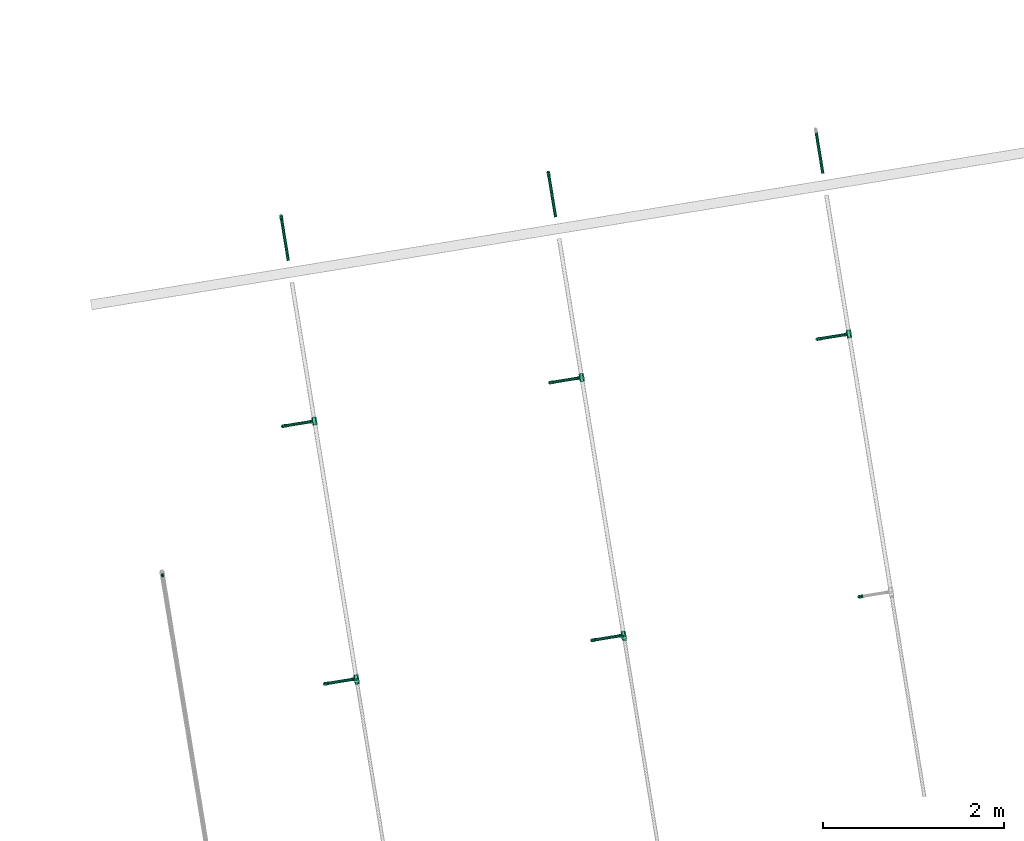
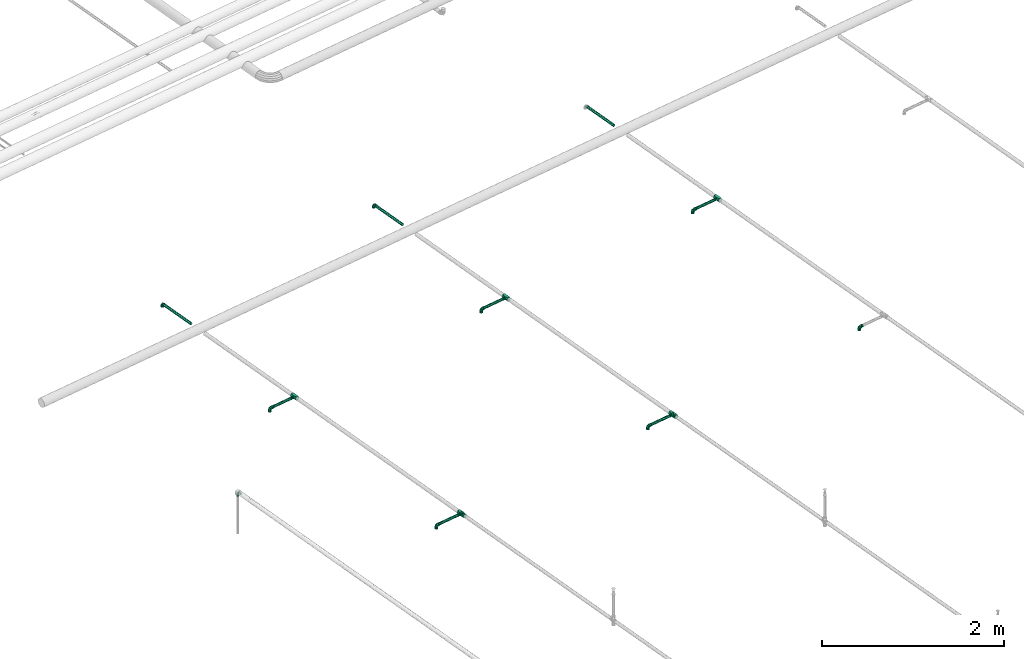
# One storey, part 21 of 56: 16 flow fittings, 8 flow segments.
"""IFC2X3 building model written with IfcOpenShell, lengths in millimetres."""

from ifc_helpers import new_model, entity, si_unit, converted_unit, derived_unit, direction, frame, frame_2d, origin, origin_with_axes, origin_2d_with_axis, place, context, subcontext, project, spatial, circle, extrude, faceted_brep, source, transform, mapped, material, type_object, element, save


model = new_model("IFC2X3")

# Units and contexts
model_context = context("Model", 3, precision=0.01, world=origin(), true_north=direction((6.12323399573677e-17, 1.0)))
plan_context = context("Plan", 3, precision=1e-05, world=origin_with_axes())
body_context = subcontext(model_context, "Body", "Model", "MODEL_VIEW")
ifc_project = project(units=[converted_unit("PLANEANGLEUNIT", "DEGREE", entity("IfcPositiveLengthMeasure", 0.0174532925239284), si_unit("PLANEANGLEUNIT", "RADIAN"), dimensions=[0, 0, 0, 0, 0, 0, 0]), si_unit("AREAUNIT", "SQUARE_METRE"), si_unit("LENGTHUNIT", "METRE", prefix="MILLI"), si_unit("MASSUNIT", "GRAM", prefix="KILO"), si_unit("POWERUNIT", "WATT"), si_unit("PRESSUREUNIT", "PASCAL", prefix="KILO"), si_unit("FORCEUNIT", "NEWTON", prefix="KILO"), si_unit("ELECTRICVOLTAGEUNIT", "VOLT"), si_unit("ELECTRICCURRENTUNIT", "AMPERE"), si_unit("THERMODYNAMICTEMPERATUREUNIT", "DEGREE_CELSIUS"), si_unit("TIMEUNIT", "SECOND"), si_unit("VOLUMEUNIT", "CUBIC_METRE"), derived_unit("LINEARVELOCITYUNIT", [(si_unit("LENGTHUNIT", "METRE"), 1), (si_unit("TIMEUNIT", "SECOND"), -1)]), derived_unit("VOLUMETRICFLOWRATEUNIT", [(si_unit("VOLUMEUNIT", "CUBIC_METRE"), 1), (si_unit("TIMEUNIT", "SECOND"), -1)]), derived_unit("THERMALTRANSMITTANCEUNIT", [(si_unit("POWERUNIT", "WATT"), 1), (si_unit("THERMODYNAMICTEMPERATUREUNIT", "KELVIN"), -1), (si_unit("AREAUNIT", "SQUARE_METRE"), -1)]), derived_unit("SOUNDPRESSUREUNIT", [(si_unit("PRESSUREUNIT", "PASCAL"), 1)])], contexts=[model_context, plan_context])

# Site, building, storey
site_placement = place(None, frame((-3.09682673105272e-06, 1.93776733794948e-05, 0.0), z_axis=(0.0, 0.0, 1.0), x_axis=(-0.160806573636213, 0.986985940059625, 0.0)))
site = spatial("IfcSite", under=ifc_project, at=site_placement, Name="Default", CompositionType="ELEMENT")
building_placement = place(site_placement, frame((0.0, 0.0, 0.0), z_axis=(0.0, 0.0, 1.0), x_axis=(1.0, -2.77555756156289e-17, 0.0)))
building = spatial("IfcBuilding", under=site, at=building_placement, Name="Bygning (endres i Project Information)", CompositionType="ELEMENT")
storey_placement = place(building_placement, frame((0.0, 0.0, 51360.0000000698), z_axis=(0.0, 0.0, 1.0), x_axis=(1.0, -2.77555756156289e-17, 0.0)))
storey = spatial("IfcBuildingStorey", under=building, at=storey_placement, Name="H01-Nivå D+0,36", CompositionType="ELEMENT", Elevation=51360.0000000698)

# Flow fittings
ifc_material_1 = material(Name="3320.001")
pipe_fitting_type_1 = type_object("IfcPipeFittingType", Name="RS_53_PIF_UN_Tee-Reduced-EN10241_MC_gen:RS_53_PIF_UN_Tee-Reduced-EN10241_MC_gen", PredefinedType="NOTDEFINED", material=ifc_material_1)
shared_shape_1 = source(origin(), body_context, "Body", "Brep", [
    faceted_brep([(44.0, -28.0, 0.0), (44.0, -21.0, -12.124355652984), (44.0, -14.0, -24.2487113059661), (44.0, 0.0, -24.2487113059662), (44.0, 14.0, -24.2487113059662), (44.0, 21.0, -12.1243556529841), (44.0, 28.0, 0.0), (44.0, 21.0, 12.1243556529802), (44.0, 14.0, 24.2487113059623), (44.0, 0.0, 24.2487113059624), (44.0, -14.0, 24.2487113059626), (44.0, -21.0, 12.1243556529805), (-44.0, -28.0, 0.0), (-44.0, -21.0, 12.1243556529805), (-44.0, -14.0, 24.2487113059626), (-44.0, 0.0, 24.2487113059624), (-44.0, 14.0, 24.2487113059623), (-44.0, 21.0, 12.1243556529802), (-44.0, 28.0, 0.0), (-44.0, 20.982647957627, -12.1544102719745), (-44.0, 14.0, -24.2487113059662), (-44.0, 0.0, -24.2487113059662), (-44.0, -14.0, -24.2487113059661), (-44.0, -21.0, -12.124355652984), (3.55028427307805, -20.1628871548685, 19.4282778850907), (11.6501421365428, -24.0814435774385, 9.71413894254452), (-19.7499999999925, -28.0, 0.0), (-8.09985786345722, -24.0814435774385, 9.71413894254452), (19.7500000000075, -28.0, 0.0), (-11.6531711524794, -24.0819773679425, -9.71358493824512), (-3.55634230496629, -20.1639547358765, -19.4271698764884), (8.0968288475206, -24.0819773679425, -9.71358493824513), (9.87500000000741, -52.0, -17.1040017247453), (14.8125000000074, -52.0, -8.55200086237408), (19.7500000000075, -52.0, 0.0), (14.8125000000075, -52.0, 8.55200086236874), (9.87500000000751, -52.0, 17.1040017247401), (0.0, -52.0, 17.1040017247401), (-9.87499999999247, -52.0, 17.1040017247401), (-14.8124999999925, -52.0, 8.55200086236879), (-19.7499999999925, -52.0, 0.0), (-14.8124999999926, -52.0, -8.55200086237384), (-9.87499999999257, -52.0, -17.1040017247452), (0.0, -52.0, -17.1040017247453)], [[[0, 1, 2, 3, 4, 5, 6, 7, 8, 9, 10, 11]], [[12, 13, 14, 15, 16, 17, 18, 19, 20, 21, 22, 23]], [[7, 6, 18, 17, 16, 8]], [[8, 16, 15, 9]], [[15, 14, 24]], [[11, 24, 25]], [[24, 9, 15]], [[12, 26, 13]], [[13, 26, 27, 24]], [[0, 11, 25]], [[0, 25, 28]], [[24, 14, 13]], [[24, 11, 10]], [[9, 24, 10]], [[19, 18, 6, 5, 4, 20]], [[23, 29, 12]], [[30, 1, 28, 31]], [[23, 30, 29]], [[12, 29, 26]], [[1, 0, 28]], [[23, 22, 30]], [[21, 20, 4, 3]], [[30, 21, 3]], [[30, 3, 2]], [[30, 2, 1]], [[21, 30, 22]], [[32, 33, 34, 35, 36, 37, 38, 39, 40, 41, 42, 43]], [[26, 41, 40]], [[29, 42, 41]], [[31, 43, 30]], [[32, 31, 33]], [[30, 42, 29]], [[28, 33, 31]], [[31, 32, 43]], [[34, 33, 28]], [[43, 42, 30]], [[26, 29, 41]], [[28, 35, 34]], [[25, 36, 35]], [[27, 37, 24]], [[38, 27, 39]], [[24, 36, 25]], [[26, 39, 27]], [[27, 38, 37]], [[40, 39, 26]], [[37, 36, 24]], [[28, 25, 35]]]),
])
for number, where, z_axis, x_axis in (
    (1, (1005768.93557438, -392286.663841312, 3370.0), (0.0, 0.0, 1.0), (-1.0, 2.77555756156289e-17, 0.0)),
    (2, (1002876.93557438, -389286.663841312, 3370.0), (0.0, 0.0, 1.0), (-1.0, 2.77555756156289e-17, 0.0)),
    (3, (1005768.93557438, -389286.663841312, 3370.0), (0.0, 0.0, 1.0), (-1.0, 2.77555756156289e-17, 0.0)),
    (4, (1002876.93557438, -386286.663841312, 3370.0), (0.0, 0.0, 1.0), (-1.0, 2.77555756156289e-17, 0.0)),
    (5, (1005768.93557438, -386286.663841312, 3370.0), (0.0, 0.0, 1.0), (-1.0, 2.77555756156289e-17, 0.0)),
):
    element("IfcFlowFitting", number, at=place(storey_placement, frame(where, z_axis=z_axis, x_axis=x_axis)), inside=storey, type_object=pipe_fitting_type_1, material=ifc_material_1, Name="RS_53_PIF_UN_Tee-Reduced-EN10241_MC_gen:RS_53_PIF_UN_Tee-Reduced-EN10241_MC_gen", ObjectType="RS_53_PIF_UN_Tee-Reduced-EN10241_MC_gen:RS_53_PIF_UN_Tee-Reduced-EN10241_MC_gen", context=body_context, shape_type="MappedRepresentation", body=[
        mapped(shared_shape_1, transform((0.0, 0.0, 0.0), scale=1.0)),
    ])
pipe_fitting_type_2 = type_object("IfcPipeFittingType", Name="RS_53_PIF_UN_Reducing-Socket-EN10241_MC_gen:RS_53_PIF_UN_Reducing-Socket-EN10241_MC_gen", PredefinedType="NOTDEFINED", material=ifc_material_1)
shared_shape_2 = source(origin(), body_context, "Body", "Brep", [
    faceted_brep([(0.0, -7.24693326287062, 27.0459231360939), (0.0, 0.0, 28.0), (0.0, 7.24693326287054, 27.0459231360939), (0.0, 14.0, 24.2487113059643), (0.0, 19.7989898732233, 19.7989898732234), (0.0, 24.2487113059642, 14.0), (0.0, 27.0459231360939, 7.24693326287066), (0.0, 28.0, 0.0), (0.0, 27.0459231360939, -7.24693326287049), (0.0, 24.2487113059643, -14.0), (0.0, 19.7989898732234, -19.7989898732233), (0.0, 14.0, -24.2487113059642), (0.0, 7.2469332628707, -27.0459231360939), (0.0, 0.0, -28.0), (0.0, -7.24693326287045, -27.0459231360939), (0.0, -14.0, -24.2487113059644), (0.0, -19.7989898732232, -19.7989898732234), (0.0, -24.2487113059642, -14.0), (0.0, -27.0459231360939, -7.24693326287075), (0.0, -28.0, 0.0), (0.0, -27.0459231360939, 7.24693326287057), (0.0, -24.2487113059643, 14.0), (0.0, -19.7989898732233, 19.7989898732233), (0.0, -14.0, 24.2487113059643), (20.0, 9.43067316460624, -25.9117989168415), (20.0, 21.4490865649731, -17.9982411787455), (20.0, 23.8802189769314, -13.7874602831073), (20.0, 26.3113513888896, -9.57667938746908), (20.0, 17.7243837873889, -21.1235683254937), (20.0, 13.9996810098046, -24.248895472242), (20.0, 27.1556756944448, -4.7883396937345), (20.0, 4.86166531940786, -27.5747023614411), (20.0, -0.000544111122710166, -27.5746064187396), (20.0, -4.86275354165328, -27.5745104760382), (20.0, 28.0, 0.0), (20.0, -14.0006379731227, -24.2483429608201), (20.0, -9.43169575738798, -25.9114267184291), (20.0, -23.8807630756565, -13.7865178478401), (20.0, -26.3117293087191, -9.57564101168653), (20.0, -21.449796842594, -17.9973946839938), (20.0, -17.7252174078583, -21.122868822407), (20.0, -28.0, 0.0), (20.0, -21.4497968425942, 17.9973946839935), (20.0, -23.8807630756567, 13.7865178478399), (20.0, -26.3117293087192, 9.57564101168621), (20.0, -17.7252174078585, 21.1228688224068), (20.0, -14.0006379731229, 24.24834296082), (20.0, -9.43169575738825, 25.9114267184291), (20.0, -4.86275354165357, 27.5745104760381), (20.0, -0.000544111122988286, 27.5746064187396), (20.0, 4.86166531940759, 27.5747023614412), (20.0, 27.1556756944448, 4.78833969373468), (20.0, 13.9996810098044, 24.2488954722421), (20.0, 9.43067316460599, 25.9117989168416), (20.0, 17.7243837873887, 21.1235683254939), (20.0, 21.449086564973, 17.9982411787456), (20.0, 26.3113513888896, 9.57667938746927), (20.0, 23.8802189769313, 13.7874602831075), (40.0, -23.0225328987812, -8.37931852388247), (40.0, -24.5000000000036, 0.0), (40.0, -18.7681935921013, -15.7481716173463), (40.0, 15.5089992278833, -18.482994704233), (40.0, 12.2499395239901, -21.2176573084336), (40.0, -12.2501209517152, -21.2175525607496), (40.0, -20.8953632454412, -12.0637450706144), (40.0, -15.5091572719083, -18.4828620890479), (40.0, -0.000103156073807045, -24.1277879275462), (40.0, -4.25449497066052, -24.1277697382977), (40.0, -8.25230796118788, -22.6726611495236), (40.0, 4.25428865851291, -24.1278061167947), (40.0, 8.25211409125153, -22.6727317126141), (40.0, 20.8952600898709, -12.0639237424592), (40.0, 18.7680589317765, -15.7483321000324), (40.0, 23.6863464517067, -4.61444575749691), (40.0, 23.0224612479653, -8.37951538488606), (40.0, 24.4999999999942, 0.0), (40.0, 23.7612306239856, -4.18975769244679), (40.0, 23.6863464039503, 4.61444602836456), (40.0, 23.7612306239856, 4.18975769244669), (40.0, 12.2499395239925, 21.2176573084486), (40.0, -12.250120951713, 21.2175525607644), (40.0, -15.509157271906, 18.4828620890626), (40.0, 18.7680589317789, 15.7483321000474), (40.0, 20.8952600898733, 12.0639237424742), (40.0, 4.2542886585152, 24.1278061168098), (40.0, 15.5089992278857, 18.482994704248), (40.0, 23.0224612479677, 8.37951538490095), (40.0, 8.25211409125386, 22.6727317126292), (40.0, -4.25449497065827, 24.1277697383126), (40.0, -18.7681935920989, 15.7481716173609), (40.0, -8.25230796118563, 22.6726611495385), (40.0, -23.0225328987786, 8.37931852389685), (40.0, -0.000103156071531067, 24.1277879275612), (40.0, -20.8953632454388, 12.0637450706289), (60.0, -12.25, -21.2176223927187), (60.0, -6.34106660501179, -23.6651827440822), (60.0, 0.0, -24.5), (60.0, 6.34106660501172, -23.6651827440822), (60.0, 12.25, -21.2176223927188), (60.0, 17.3241161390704, -17.3241161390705), (60.0, 21.2176223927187, -12.2500000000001), (60.0, 23.6651827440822, -6.34106660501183), (60.0, 24.5, 0.0), (60.0, 23.6651827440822, 6.34106660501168), (60.0, 21.2176223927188, 12.2499999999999), (60.0, 17.3241161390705, 17.3241161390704), (60.0, 12.2500000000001, 21.2176223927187), (60.0, 6.34106660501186, 23.6651827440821), (60.0, 0.0, 24.5), (60.0, -6.34106660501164, 23.6651827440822), (60.0, -12.2499999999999, 21.2176223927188), (60.0, -17.3241161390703, 17.3241161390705), (60.0, -21.2176223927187, 12.2500000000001), (60.0, -23.6651827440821, 6.34106660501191), (60.0, -24.5, 0.0), (60.0, -23.6651827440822, -6.34106660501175), (60.0, -21.2176223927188, -12.25), (60.0, -17.3241161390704, -17.3241161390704)], [[[0, 1, 2, 3, 4, 5, 6, 7, 8, 9, 10, 11, 12, 13, 14, 15, 16, 17, 18, 19, 20, 21, 22, 23]], [[12, 11, 24]], [[25, 10, 9]], [[26, 25, 9, 27]], [[11, 28, 29]], [[30, 27, 8]], [[8, 7, 30]], [[8, 27, 9]], [[24, 31, 12]], [[28, 10, 25]], [[32, 33, 13, 31]], [[11, 29, 24]], [[10, 28, 11]], [[7, 34, 30]], [[14, 13, 33]], [[35, 15, 36]], [[37, 38, 17, 39]], [[14, 36, 15]], [[38, 18, 17]], [[40, 39, 16]], [[36, 14, 33]], [[16, 39, 17]], [[15, 35, 40]], [[38, 41, 18]], [[41, 19, 18]], [[12, 31, 13]], [[16, 15, 40]], [[20, 19, 41]], [[42, 22, 21]], [[43, 42, 21, 44]], [[23, 45, 46]], [[20, 41, 44]], [[47, 48, 0]], [[45, 22, 42]], [[49, 50, 1, 48]], [[22, 45, 23]], [[2, 1, 50]], [[0, 48, 1]], [[6, 51, 7]], [[52, 3, 53]], [[20, 44, 21]], [[0, 23, 47]], [[4, 3, 54]], [[51, 34, 7]], [[2, 53, 3]], [[54, 55, 4]], [[53, 2, 50]], [[23, 46, 47]], [[4, 55, 5]], [[6, 5, 56]], [[56, 51, 6]], [[3, 52, 54]], [[5, 55, 57, 56]], [[58, 59, 38]], [[60, 39, 40]], [[61, 62, 28]], [[58, 38, 37]], [[63, 35, 36]], [[64, 39, 60]], [[59, 41, 38]], [[65, 35, 63]], [[37, 39, 64]], [[66, 67, 32]], [[40, 35, 65]], [[36, 33, 68]], [[68, 33, 67]], [[31, 69, 66]], [[69, 31, 24]], [[28, 25, 61]], [[70, 29, 62]], [[71, 72, 26]], [[30, 73, 27]], [[25, 26, 72]], [[64, 58, 37]], [[62, 29, 28]], [[27, 73, 74]], [[30, 75, 76, 73]], [[26, 27, 71]], [[65, 60, 40]], [[61, 25, 72]], [[27, 74, 71]], [[75, 30, 34]], [[32, 67, 33]], [[32, 31, 66]], [[24, 29, 70]], [[70, 69, 24]], [[68, 63, 36]], [[51, 77, 78, 75]], [[52, 79, 54]], [[80, 46, 81]], [[57, 82, 83]], [[84, 53, 50]], [[85, 54, 79]], [[77, 56, 86]], [[34, 51, 75]], [[85, 55, 54]], [[87, 52, 53]], [[51, 56, 77]], [[83, 86, 56]], [[57, 55, 82]], [[49, 48, 88]], [[47, 46, 80]], [[81, 45, 89]], [[87, 53, 84]], [[90, 47, 80]], [[44, 59, 91]], [[43, 44, 91]], [[79, 52, 87]], [[45, 42, 89]], [[92, 49, 88]], [[47, 90, 48]], [[42, 43, 93]], [[81, 46, 45]], [[82, 55, 85]], [[93, 43, 91]], [[41, 59, 44]], [[57, 83, 56]], [[88, 48, 90]], [[50, 49, 92]], [[89, 42, 93]], [[84, 50, 92]], [[94, 95, 96, 97, 98, 99, 100, 101, 102, 103, 104, 105, 106, 107, 108, 109, 110, 111, 112, 113, 114, 115, 116, 117]], [[115, 114, 59]], [[60, 117, 116]], [[64, 60, 116, 58]], [[94, 65, 63]], [[115, 59, 58]], [[68, 67, 95]], [[65, 117, 60]], [[66, 69, 96, 67]], [[117, 65, 94]], [[69, 97, 96]], [[95, 67, 96]], [[97, 70, 98]], [[70, 62, 98]], [[74, 101, 100]], [[95, 94, 68]], [[98, 62, 61]], [[76, 75, 102]], [[115, 58, 116]], [[97, 69, 70]], [[99, 72, 100]], [[61, 72, 99]], [[99, 98, 61]], [[71, 74, 100, 72]], [[101, 76, 102]], [[94, 63, 68]], [[101, 74, 73, 76]], [[107, 106, 87]], [[82, 105, 104]], [[83, 82, 104, 86]], [[106, 85, 79]], [[103, 78, 77, 86]], [[103, 102, 78]], [[103, 86, 104]], [[87, 84, 107]], [[85, 105, 82]], [[92, 88, 108, 84]], [[106, 79, 87]], [[105, 85, 106]], [[102, 75, 78]], [[109, 108, 88]], [[80, 110, 90]], [[93, 91, 112, 89]], [[109, 90, 110]], [[91, 113, 112]], [[81, 89, 111]], [[90, 109, 88]], [[111, 89, 112]], [[110, 80, 81]], [[91, 59, 113]], [[59, 114, 113]], [[107, 84, 108]], [[111, 110, 81]]]),
])
for number, where, z_axis, x_axis in (
    (6, (1002874.33557438, -389286.663841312, 3370.0), (0.0, 0.0, 1.0), (-1.0, 2.77555756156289e-17, 0.0)),
    (7, (1002874.33557438, -386286.663841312, 3370.0), (0.0, 0.0, 1.0), (-1.0, 2.77555756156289e-17, 0.0)),
):
    element("IfcFlowFitting", number, at=place(storey_placement, frame(where, z_axis=z_axis, x_axis=x_axis)), inside=storey, type_object=pipe_fitting_type_2, material=ifc_material_1, Name="RS_53_PIF_UN_Reducing-Socket-EN10241_MC_gen:RS_53_PIF_UN_Reducing-Socket-EN10241_MC_gen", ObjectType="RS_53_PIF_UN_Reducing-Socket-EN10241_MC_gen:RS_53_PIF_UN_Reducing-Socket-EN10241_MC_gen", context=body_context, shape_type="MappedRepresentation", body=[
        mapped(shared_shape_2, transform((0.0, 0.0, 0.0), scale=1.0)),
    ])
pipe_fitting_type_3 = type_object("IfcPipeFittingType", Name="RS_53_PIF_UN_Elbow-EN10241_NOR:RS_53_PIF_UN_Elbow-EN10241_NOR", PredefinedType="NOTDEFINED", material=ifc_material_1)
shared_shape_3 = source(origin(), body_context, "Body", "Brep", [
    faceted_brep([(-43.0, 5.11167614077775, 19.0770350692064), (-43.0, 17.1040017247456, 9.87499999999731), (-43.0, 19.7500000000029, 0.0), (-43.0, 17.1040017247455, -9.87500000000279), (-43.0, 5.11167614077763, -19.0770350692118), (-43.0, -5.11167614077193, -19.0770350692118), (-43.0, -17.1040017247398, -9.87500000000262), (-43.0, -19.7499999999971, 0.0), (-43.0, -17.1040017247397, 9.87499999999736), (-43.0, -5.11167614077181, 19.0770350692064), (-21.7499999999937, -19.7499999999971, 0.0), (-21.7499999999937, -15.1293510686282, -12.6950870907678), (-21.7499999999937, -3.42946974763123, -19.4499675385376), (-21.7499999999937, 15.1294711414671, -12.694943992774), (-21.7499999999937, 19.7500000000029, 0.0), (-21.7499999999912, 5.85000069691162, -16.072455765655), (-21.7499999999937, 15.1294711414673, 12.6949439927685), (-21.7499999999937, 3.42965371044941, 19.4499351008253), (-21.7499999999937, -15.1293510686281, 12.6950870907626), (-5.41688095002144, -10.3200693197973, 0.0), (0.655979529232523, -2.00253561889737, 16.4678355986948), (-11.0449015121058, 9.84579831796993, 18.897380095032), (-18.5589216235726, 21.7499999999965, 6.75491881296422), (-15.1293490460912, 21.7499999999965, 12.6950895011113), (-20.3357864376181, 20.3357864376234, 0.0), (-19.7499999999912, 21.7499999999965, 0.0), (14.190054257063, 1.0, 0.0), (12.6950125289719, 21.7499999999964, 15.1294136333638), (6.75482439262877, 21.7499999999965, 18.5589559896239), (17.2232575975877, 12.3200689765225, 0.0), (-6.754824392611, 21.7499999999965, 18.558955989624), (19.7500000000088, 21.7499999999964, 0.0), (18.5589216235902, 21.7499999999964, 6.75491881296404), (0.0, 21.7499999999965, 19.7499999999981), (-18.5589216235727, 21.7499999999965, -6.75491881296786), (-10.1618436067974, 10.1618877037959, -19.0082217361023), (1.2569166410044, -0.890945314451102, -16.7093898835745), (0.0, 21.7499999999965, -19.7500000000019), (-6.75482439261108, 21.7499999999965, -18.5589559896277), (-12.6950125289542, 21.7499999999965, -15.1294136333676), (18.5589216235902, 21.7499999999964, -6.75491881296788), (15.1293490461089, 21.7499999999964, -12.6950895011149), (6.75482439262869, 21.7499999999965, -18.5589559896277), (-9.8749999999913, 43.0, 17.1040017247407), (0.0, 43.0, 19.7499999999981), (9.8750000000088, 43.0, 17.1040017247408), (19.0770350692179, 43.0, 5.11167614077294), (19.0770350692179, 43.0, -5.11167614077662), (9.87500000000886, 43.0, -17.1040017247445), (0.0, 43.0, -19.7500000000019), (-9.87499999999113, 43.0, -17.1040017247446), (-19.0770350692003, 43.0, -5.11167614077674), (-19.0770350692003, 43.0, 5.11167614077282)], [[[0, 1, 2, 3, 4, 5, 6, 7, 8, 9]], [[7, 6, 10]], [[6, 11, 10]], [[11, 6, 5]], [[11, 5, 12]], [[13, 4, 3]], [[14, 3, 2]], [[4, 13, 15, 12]], [[13, 3, 14]], [[4, 12, 5]], [[2, 1, 14]], [[1, 16, 14]], [[16, 1, 0]], [[16, 0, 17]], [[18, 9, 8]], [[10, 8, 7]], [[9, 18, 17]], [[18, 8, 10]], [[9, 17, 0]], [[18, 19, 20]], [[20, 21, 17]], [[22, 16, 23]], [[16, 17, 21]], [[24, 14, 22]], [[22, 25, 24]], [[14, 16, 22]], [[20, 26, 27]], [[27, 28, 20]], [[26, 29, 27]], [[23, 21, 30]], [[31, 32, 29]], [[18, 20, 17]], [[26, 20, 19]], [[21, 23, 16]], [[18, 10, 19]], [[33, 21, 20]], [[33, 30, 21]], [[27, 29, 32]], [[33, 20, 28]], [[14, 24, 34]], [[25, 34, 24]], [[12, 35, 36]], [[14, 34, 13]], [[36, 19, 11]], [[37, 35, 38]], [[38, 35, 39]], [[10, 11, 19]], [[34, 39, 13]], [[37, 36, 35]], [[36, 11, 12]], [[39, 35, 13]], [[40, 31, 29]], [[41, 36, 42]], [[36, 37, 42]], [[41, 40, 29]], [[26, 36, 41]], [[29, 26, 41]], [[19, 36, 26]], [[13, 35, 12, 15]], [[43, 44, 45, 46, 47, 48, 49, 50, 51, 52]], [[49, 37, 38]], [[50, 38, 39]], [[49, 38, 50]], [[51, 50, 39]], [[51, 34, 25]], [[34, 51, 39]], [[52, 25, 22]], [[22, 23, 52]], [[30, 43, 23]], [[52, 23, 43]], [[44, 43, 30]], [[33, 44, 30]], [[25, 52, 51]], [[44, 33, 28]], [[45, 28, 27]], [[44, 28, 45]], [[46, 45, 27]], [[46, 32, 31]], [[32, 46, 27]], [[47, 31, 40]], [[40, 41, 47]], [[42, 48, 41]], [[47, 41, 48]], [[49, 48, 42]], [[37, 49, 42]], [[31, 47, 46]]]),
])
for number, where, z_axis, x_axis in (
    (8, (1002876.93557438, -391931.017686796, 3370.0), (1.0, -2.77555756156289e-17, 0.0), (0.0, 0.0, 1.0)),
    (9, (1005768.93557438, -391931.017686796, 3370.0), (1.0, -2.77555756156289e-17, 0.0), (0.0, 0.0, 1.0)),
    (10, (1008068.93557438, -389286.663841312, 3370.0), (-2.77555756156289e-17, -1.0, 0.0), (0.0, 0.0, 1.0)),
    (11, (1002876.93557438, -388931.017686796, 3370.0), (1.0, -2.77555756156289e-17, 0.0), (0.0, 0.0, 1.0)),
    (12, (1005768.93557438, -388931.017686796, 3370.0), (1.0, -2.77555756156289e-17, 0.0), (0.0, 0.0, 1.0)),
    (13, (1008068.93557438, -386286.663841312, 3370.0), (-2.77555756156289e-17, -1.0, 0.0), (0.0, 0.0, 1.0)),
    (14, (1002876.93557438, -385931.017686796, 3370.0), (1.0, -2.77555756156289e-17, 0.0), (0.0, 0.0, 1.0)),
    (15, (1005768.93557438, -385931.017686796, 3370.0), (1.0, -2.77555756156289e-17, 0.0), (0.0, 0.0, 1.0)),
):
    element("IfcFlowFitting", number, at=place(storey_placement, frame(where, z_axis=z_axis, x_axis=x_axis)), inside=storey, type_object=pipe_fitting_type_3, material=ifc_material_1, Name="RS_53_PIF_UN_Elbow-EN10241_NOR:RS_53_PIF_UN_Elbow-EN10241_NOR", ObjectType="RS_53_PIF_UN_Elbow-EN10241_NOR:RS_53_PIF_UN_Elbow-EN10241_NOR", context=body_context, shape_type="MappedRepresentation", body=[
        mapped(shared_shape_3, transform((0.0, 0.0, 0.0), scale=1.0)),
    ])
ifc_material_2 = material(Name="3103.001 KV")
pipe_fitting_type_4 = type_object("IfcPipeFittingType", Name="RS_53_PF_UN_Bend-Mapress-Cu-In_gen_MC:Mapress Bend", PredefinedType="NOTDEFINED", material=ifc_material_2)
shared_shape_4 = source(origin(), body_context, "Body", "Brep", [
    faceted_brep([(4.01169519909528, 34.0, -14.9718503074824), (13.423393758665, 34.0, -7.7500000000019), (15.5000000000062, 34.0, 0.0), (13.4233937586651, 34.0, 7.74999999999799), (4.01169519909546, 34.0, 14.9718503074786), (-4.01169519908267, 34.0, 14.9718503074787), (-13.4233937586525, 34.0, 7.74999999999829), (-15.4999999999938, 34.0, 0.0), (-13.4233937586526, 34.0, -7.75000000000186), (-4.01169519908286, 34.0, -14.9718503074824), (-4.01169519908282, 57.0, -14.9718503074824), (-13.4233937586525, 57.0, -7.75000000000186), (-15.4999999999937, 57.0, 0.0), (-13.4233937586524, 57.0, 7.74999999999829), (-4.01169519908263, 57.0, 14.9718503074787), (4.0116951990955, 57.0, 14.9718503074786), (13.4233937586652, 57.0, 7.74999999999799), (15.5000000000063, 57.0, 0.0), (13.4233937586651, 57.0, -7.7500000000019), (4.01169519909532, 57.0, -14.9718503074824)], [[[0, 1, 2, 3, 4, 5, 6, 7, 8, 9]], [[10, 11, 12, 13, 14, 15, 16, 17, 18, 19]], [[2, 17, 16, 3]], [[3, 16, 15, 4]], [[15, 14, 5, 4]], [[5, 14, 13, 6]], [[6, 13, 12, 7]], [[7, 12, 11, 8]], [[8, 11, 10, 9]], [[10, 19, 0, 9]], [[0, 19, 18, 1]], [[1, 18, 17, 2]]]),
    faceted_brep([(-57.0, -13.4233937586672, 7.74999999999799), (-57.0, -4.0116951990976, 14.9718503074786), (-57.0, 4.01169519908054, 14.9718503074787), (-57.0, 13.4233937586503, 7.74999999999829), (-57.0, 15.4999999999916, 0.0), (-57.0, 13.4233937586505, -7.75000000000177), (-57.0, 4.01169519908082, -14.9718503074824), (-57.0, -4.01169519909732, -14.9718503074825), (-57.0, -13.4233937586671, -7.75000000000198), (-57.0, -15.5000000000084, 0.0), (-34.0, 4.01169519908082, -14.9718503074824), (-34.0, 13.4233937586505, -7.75000000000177), (-34.0, 15.4999999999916, 0.0), (-34.0, 13.4233937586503, 7.74999999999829), (-34.0, 4.01169519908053, 14.9718503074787), (-34.0, -4.0116951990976, 14.9718503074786), (-34.0, -13.4233937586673, 7.74999999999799), (-34.0, -15.5000000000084, 0.0), (-34.0, -13.4233937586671, -7.75000000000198), (-34.0, -4.01169519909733, -14.9718503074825)], [[[0, 1, 2, 3, 4, 5, 6, 7, 8, 9]], [[10, 11, 12, 13, 14, 15, 16, 17, 18, 19]], [[9, 17, 16, 0]], [[0, 16, 15, 1]], [[15, 14, 2, 1]], [[2, 14, 13, 3]], [[3, 13, 12, 4]], [[4, 12, 11, 5]], [[5, 11, 10, 6]], [[10, 19, 7, 6]], [[7, 19, 18, 8]], [[8, 18, 17, 9]]]),
    faceted_brep([(-10.0, -7.56921938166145, 0.0), (-12.0502525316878, -4.01807782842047, 9.89949493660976), (-34.0, -9.8994949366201, 9.89949493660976), (-34.0, -14.0, 0.0), (-17.0, 4.55513627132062, 14.0), (-34.0, 0.0, 14.0), (-21.9497474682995, 13.1283503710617, 9.89949493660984), (-34.0, 9.89949493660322, 9.89949493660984), (-24.0, 16.6794919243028, 0.0), (-34.0, 14.0, 0.0), (-21.9497474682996, 13.1283503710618, -9.89949493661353), (-34.0, 9.89949493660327, -9.89949493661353), (-17.0, 4.55513627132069, -14.0), (-34.0, 0.0, -14.0), (-12.0502525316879, -4.01807782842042, -9.89949493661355), (-34.0, -9.89949493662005, -9.89949493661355), (7.56921938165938, 10.0, 0.0), (4.01807782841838, 12.0502525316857, 9.89949493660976), (-4.55513627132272, 17.0, 14.0), (-13.1283503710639, 21.9497474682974, 9.89949493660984), (-16.6794919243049, 24.0, 0.0), (-13.1283503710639, 21.9497474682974, -9.89949493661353), (-4.5551362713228, 17.0, -14.0), (4.01807782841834, 12.0502525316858, -9.89949493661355), (14.0, 34.0, 0.0), (9.89949493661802, 34.0, 9.89949493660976), (0.0, 34.0, 14.0), (-9.8994949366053, 34.0, 9.89949493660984), (-14.0, 34.0, 0.0), (-9.89949493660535, 34.0, -9.89949493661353), (0.0, 34.0, -14.0), (9.89949493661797, 34.0, -9.89949493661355)], [[[0, 1, 2, 3]], [[1, 4, 5, 2]], [[4, 6, 7, 5]], [[6, 8, 9, 7]], [[8, 10, 11, 9]], [[10, 12, 13, 11]], [[12, 14, 15, 13]], [[14, 0, 3, 15]], [[16, 17, 1, 0]], [[17, 18, 4, 1]], [[18, 19, 6, 4]], [[19, 20, 8, 6]], [[20, 21, 10, 8]], [[21, 22, 12, 10]], [[22, 23, 14, 12]], [[23, 16, 0, 14]], [[24, 25, 17, 16]], [[25, 26, 18, 17]], [[26, 27, 19, 18]], [[27, 28, 20, 19]], [[28, 29, 21, 20]], [[29, 30, 22, 21]], [[30, 31, 23, 22]], [[31, 24, 16, 23]], [[3, 2, 5, 7, 9, 11, 13, 15]], [[31, 30, 29, 28, 27, 26, 25, 24]]]),
])
flow_fitting_placement = place(storey_placement, frame((1004389.11179517, -384350.157958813, 3700.0), z_axis=(2.77555756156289e-17, 1.0, 0.0), x_axis=(1.0, -2.77555756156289e-17, 0.0)))
element("IfcFlowFitting", 16, at=flow_fitting_placement, inside=storey, type_object=pipe_fitting_type_4, material=ifc_material_2, Name="RS_53_PF_UN_Bend-Mapress-Cu-In_gen_MC:Mapress Bend", ObjectType="RS_53_PF_UN_Bend-Mapress-Cu-In_gen_MC:Mapress Bend", context=body_context, shape_type="MappedRepresentation", body=[
    mapped(shared_shape_4, transform((0.0, 0.0, 0.0), scale=1.0)),
])

# Flow segments
pipe_segment_type = type_object("IfcPipeSegmentType", Name="Pipe Types:Stålrør sveist og gjenget", PredefinedType="NOTDEFINED", material=ifc_material_1)
flow_segment_1_placement = place(storey_placement, frame((0.0, 0.0, 0.0), z_axis=(0.0, 0.0, 1.0), x_axis=(1.0, -2.77555756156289e-17, 0.0)))
element("IfcFlowSegment", 17, at=flow_segment_1_placement, inside=storey, type_object=pipe_segment_type, Name="Pipe Types:Stålrør sveist og gjenget", ObjectType="Pipe Types:Stålrør sveist og gjenget", context=body_context, shape_type="SweptSolid", body=[
    extrude(circle(Radius=16.8500004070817, at=origin_2d_with_axis()), frame((1005768.93557438, -392253.763841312, 3370.0), z_axis=(0.0, 1.0, 0.0), x_axis=(-1.0, 0.0, 0.0)), (0.0, 0.0, 1.0), 298.846154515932),
])
flow_segment_2_placement = place(storey_placement, frame((0.0, 0.0, 0.0), z_axis=(0.0, 0.0, 1.0), x_axis=(1.0, -2.77555756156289e-17, 0.0)))
element("IfcFlowSegment", 18, at=flow_segment_2_placement, inside=storey, type_object=pipe_segment_type, Name="Pipe Types:Stålrør sveist og gjenget", ObjectType="Pipe Types:Stålrør sveist og gjenget", context=body_context, shape_type="SweptSolid", body=[
    extrude(circle(Radius=16.8500004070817, at=frame_2d((0.0, -8.66293703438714e-12), x_axis=(1.0, 0.0))), frame((1007568.93557438, -392286.663841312, 3370.0), z_axis=(1.0, 0.0, 0.0), x_axis=(0.0, 1.0, 0.0)), (0.0, 0.0, 1.0), 476.100000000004),
])
flow_segment_3_placement = place(storey_placement, frame((0.0, 0.0, 0.0), z_axis=(0.0, 0.0, 1.0), x_axis=(1.0, -2.77555756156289e-17, 0.0)))
element("IfcFlowSegment", 19, at=flow_segment_3_placement, inside=storey, type_object=pipe_segment_type, Name="Pipe Types:Stålrør sveist og gjenget", ObjectType="Pipe Types:Stålrør sveist og gjenget", context=body_context, shape_type="SweptSolid", body=[
    extrude(circle(Radius=16.8500004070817, at=origin_2d_with_axis()), frame((1002876.93557438, -389253.763841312, 3370.0), z_axis=(0.0, 1.0, 0.0), x_axis=(-1.0, 0.0, 0.0)), (0.0, 0.0, 1.0), 298.846154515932),
])
flow_segment_4_placement = place(storey_placement, frame((0.0, 0.0, 0.0), z_axis=(0.0, 0.0, 1.0), x_axis=(1.0, -2.77555756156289e-17, 0.0)))
element("IfcFlowSegment", 20, at=flow_segment_4_placement, inside=storey, type_object=pipe_segment_type, Name="Pipe Types:Stålrør sveist og gjenget", ObjectType="Pipe Types:Stålrør sveist og gjenget", context=body_context, shape_type="SweptSolid", body=[
    extrude(circle(Radius=16.8500004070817, at=origin_2d_with_axis()), frame((1005768.93557438, -389253.763841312, 3370.0), z_axis=(0.0, 1.0, 0.0), x_axis=(-1.0, 0.0, 0.0)), (0.0, 0.0, 1.0), 298.846154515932),
])
flow_segment_5_placement = place(storey_placement, frame((0.0, 0.0, 0.0), z_axis=(0.0, 0.0, 1.0), x_axis=(1.0, -2.77555756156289e-17, 0.0)))
element("IfcFlowSegment", 21, at=flow_segment_5_placement, inside=storey, type_object=pipe_segment_type, Name="Pipe Types:Stålrør sveist og gjenget", ObjectType="Pipe Types:Stålrør sveist og gjenget", context=body_context, shape_type="SweptSolid", body=[
    extrude(circle(Radius=16.8500004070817, at=frame_2d((0.0, -8.66293703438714e-12), x_axis=(1.0, 0.0))), frame((1007568.93557438, -389286.663841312, 3370.0), z_axis=(1.0, 0.0, 0.0), x_axis=(0.0, 1.0, 0.0)), (0.0, 0.0, 1.0), 476.100000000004),
])
flow_segment_6_placement = place(storey_placement, frame((0.0, 0.0, 0.0), z_axis=(0.0, 0.0, 1.0), x_axis=(1.0, -2.77555756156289e-17, 0.0)))
element("IfcFlowSegment", 22, at=flow_segment_6_placement, inside=storey, type_object=pipe_segment_type, Name="Pipe Types:Stålrør sveist og gjenget", ObjectType="Pipe Types:Stålrør sveist og gjenget", context=body_context, shape_type="SweptSolid", body=[
    extrude(circle(Radius=16.8500004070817, at=origin_2d_with_axis()), frame((1002876.93557438, -386253.763841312, 3370.0), z_axis=(0.0, 1.0, 0.0), x_axis=(-1.0, 0.0, 0.0)), (0.0, 0.0, 1.0), 298.846154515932),
])
flow_segment_7_placement = place(storey_placement, frame((0.0, 0.0, 0.0), z_axis=(0.0, 0.0, 1.0), x_axis=(1.0, -2.77555756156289e-17, 0.0)))
element("IfcFlowSegment", 23, at=flow_segment_7_placement, inside=storey, type_object=pipe_segment_type, Name="Pipe Types:Stålrør sveist og gjenget", ObjectType="Pipe Types:Stålrør sveist og gjenget", context=body_context, shape_type="SweptSolid", body=[
    extrude(circle(Radius=16.8500004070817, at=origin_2d_with_axis()), frame((1005768.93557438, -386253.763841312, 3370.0), z_axis=(0.0, 1.0, 0.0), x_axis=(-1.0, 0.0, 0.0)), (0.0, 0.0, 1.0), 298.846154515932),
])
flow_segment_8_placement = place(storey_placement, frame((0.0, 0.0, 0.0), z_axis=(0.0, 0.0, 1.0), x_axis=(1.0, -2.77555756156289e-17, 0.0)))
element("IfcFlowSegment", 24, at=flow_segment_8_placement, inside=storey, type_object=pipe_segment_type, Name="Pipe Types:Stålrør sveist og gjenget", ObjectType="Pipe Types:Stålrør sveist og gjenget", context=body_context, shape_type="SweptSolid", body=[
    extrude(circle(Radius=16.8500004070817, at=frame_2d((0.0, -8.66293703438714e-12), x_axis=(1.0, 0.0))), frame((1007568.93557438, -386286.663841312, 3370.0), z_axis=(1.0, 0.0, 0.0), x_axis=(0.0, 1.0, 0.0)), (0.0, 0.0, 1.0), 476.100000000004),
])

save(model, "model.ifc")
